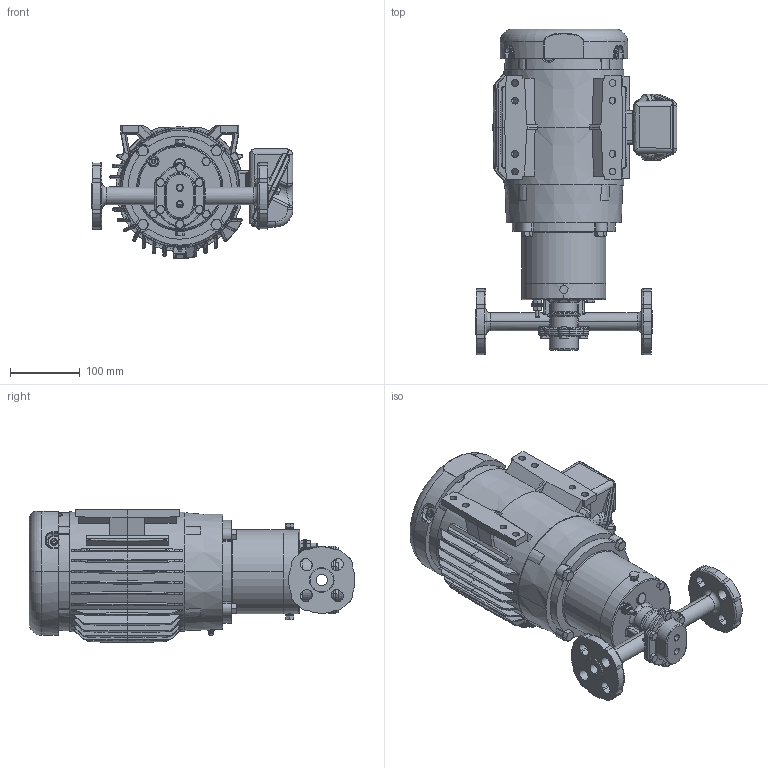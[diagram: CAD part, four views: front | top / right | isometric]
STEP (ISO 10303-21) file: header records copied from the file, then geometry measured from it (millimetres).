
FILE_DESCRIPTION (( 'STEP AP214' ), '1' );
FILE_NAME ('E05M FLNG 143-5TC.STEP', '2025-03-05T16:41:21', ( '' ), ( '' ), 'SwSTEP 2.0', 'SolidWorks 2021', '' );
FILE_SCHEMA (( 'AUTOMOTIVE_DESIGN' ));
Length unit declared in the file: inch
Products named in the file (1): E05M FLNG 143-5TC
Bounding box: 288.79 x 466.63 x 190.11 mm (x, y, z)
Volume: 8067176 mm3; surface area: 702212.8 mm2
Topology: 28 solids, 28 shells, 2946 faces, 7849 edges, 5072 vertices
Faces by surface type: plane 1156, cylinder 999, cone 399, torus 212, bspline 136, sphere 44
Entity records: 147187 total; most frequent: CARTESIAN_POINT 36618, ORIENTED_EDGE 15638, DIRECTION 14525, EDGE_CURVE 7819, AXIS2_PLACEMENT_3D 5572, VERTEX_POINT 5068, LINE 3381, VECTOR 3381
